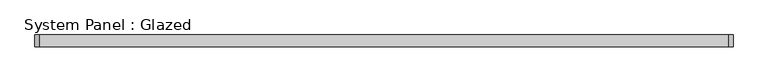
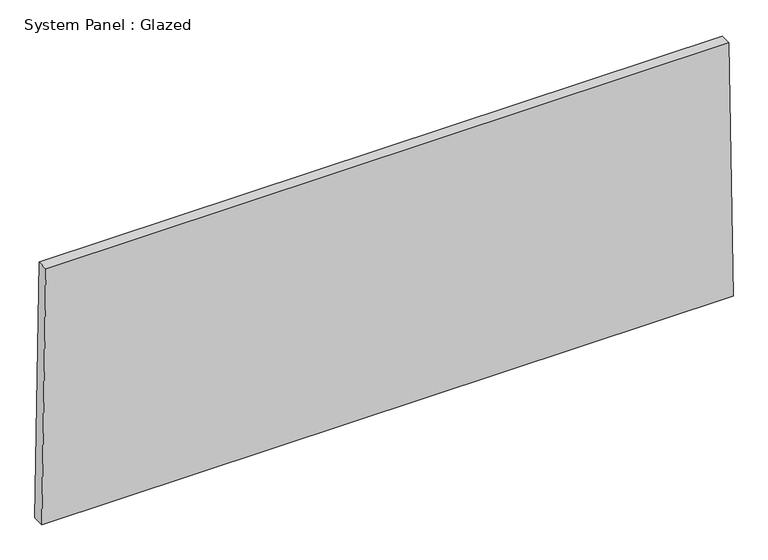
"""IFC4 building model written with IfcOpenShell, lengths in millimetres: plate geometry, System Panel : Glazed."""

from ifc_helpers import new_model, si_unit, frame, origin, place, context, project, spatial, polyline, outline, extrude, source, transform, mapped, element, save


def system_panel_glazed_56180ac8(model_context):
    return source(origin(), model_context, "Body", "SweptSolid", [
        extrude(outline(polyline([(0.0, -750.4470024), (0.0, 750.4470024), (584.1270913, 741.4119927), (584.1270913, -741.4119927), (0.0, -750.4470024)])), frame((0.0, 19.05, 0.0), z_axis=(0.0, 1.0, 0.0), x_axis=(0.0, 0.0, 1.0)), (0.0, 0.0, 1.0), 25.4),
    ])


if __name__ == "__main__":
    model = new_model("IFC4")
    model_context = context("Model", 3, world=origin())
    ifc_project = project(units=[si_unit("LENGTHUNIT", "METRE", prefix="MILLI")], contexts=[model_context])
    site = spatial("IfcSite", under=ifc_project)
    building = spatial("IfcBuilding", under=site)
    placement = place(None, origin())
    system_panel_glazed_shape = system_panel_glazed_56180ac8(model_context)
    element("IfcPlate", 1, ObjectType="System Panel : Glazed", at=placement, inside=building, context=model_context, shape_type="MappedRepresentation", body=[
        mapped(system_panel_glazed_shape, transform((0.0, 0.0, 0.0), x_axis=(1.0, 0.0, 0.0), y_axis=(0.0, 1.0, 0.0), z_axis=(0.0, 0.0, 1.0))),
    ])
    save(model, "model.ifc")
